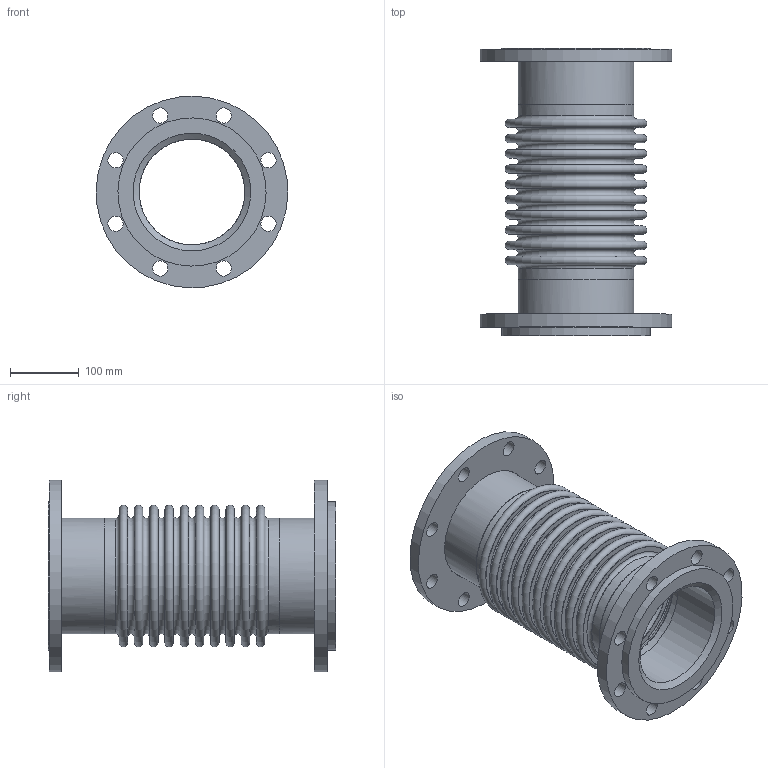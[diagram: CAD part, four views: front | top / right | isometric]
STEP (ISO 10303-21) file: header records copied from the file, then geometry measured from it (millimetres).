
FILE_DESCRIPTION(/* description */ (''),/* implementation_level */ '2;1');
FILE_NAME(/* name */ 'C:\001_Work\Designs\EFL250-ASA150LB\EFL250-6x16.50 (ASA150LB).stp',/* time_stamp */ '2016-05-11T00:07:39-04:00',/* author */ ('rramoutar'),/* organization */ ('Mason Industries Inc.'),/* preprocessor_version */ 'ST-DEVELOPER v15.6',/* originating_system */ 'Autodesk Inventor 2015',/* authorisation */ '');
FILE_SCHEMA (('CONFIG_CONTROL_DESIGN'));
Length unit declared in the file: inch
Products named in the file (1): EFL250-6x16.50-ASA150LB
Bounding box: 279.13 x 419.1 x 279.13 mm (x, y, z)
Volume: 2361150.4 mm3; surface area: 1029335.2 mm2
Topology: 1 solids, 1 shells, 129 faces, 247 edges, 171 vertices
Faces by surface type: plane 53, torus 42, cylinder 31, cone 3
Full cylindrical faces by diameter (mm): 22.225 x16, 154.178 x2, 166.243 x2, 168.275 x2, 168.402 x2, 171.45 x3, 215.9 x2, 279.4 x2
Entity records: 2981 total; most frequent: DIRECTION 550, CARTESIAN_POINT 420, EDGE_LOOP 290, ORIENTED_EDGE 290, AXIS2_PLACEMENT_3D 275, FACE_BOUND 161, CIRCLE 145, VERTEX_POINT 145
